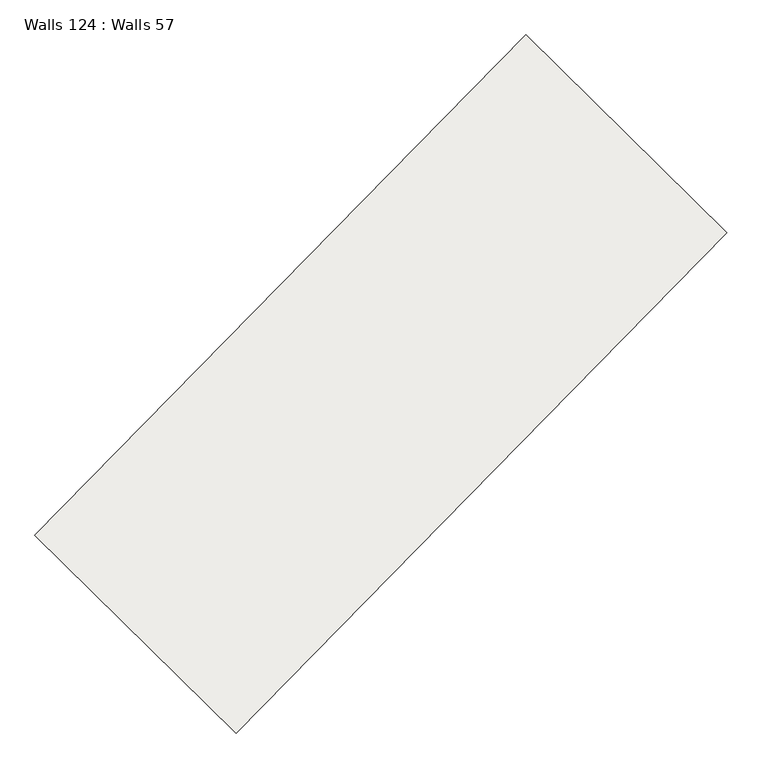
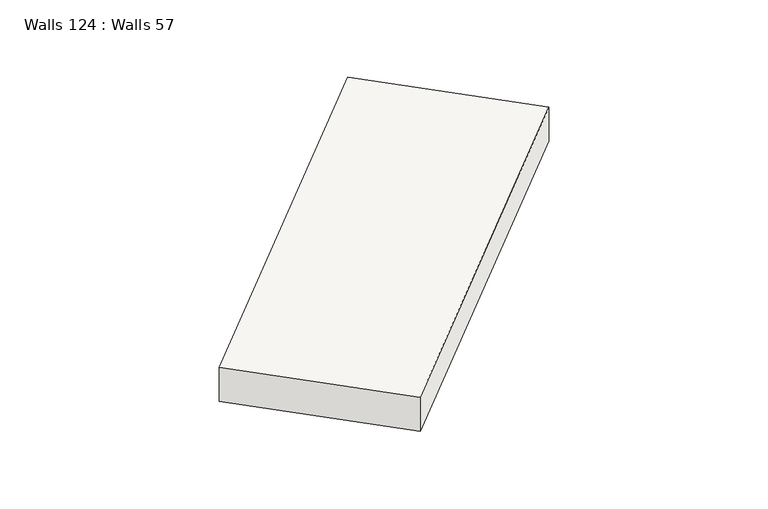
"""IFC4 building model written with IfcOpenShell, lengths in millimetres: slab geometry, Walls 124 : Walls 57."""

from ifc_helpers import new_model, si_unit, frame, origin, place, context, project, spatial, polyline, outline, extrude, source, transform, mapped, element, save


def walls_124_walls_57_e2057624(model_context):
    return source(origin(), model_context, "Body", "SweptSolid", [
        extrude(outline(polyline([(-350.0, 0.0), (350.0, 0.0), (270.0, -8699.9999997), (-430.0, -8699.9999997), (-350.0, 0.0)])), frame((-36583.2115949, -196481.1356057, 637910.0), z_axis=(-0.7137361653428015, 0.700414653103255, 0.0), x_axis=(0.0, 0.0, 1.0)), (0.0, 0.0, 1.0), 3499.999995),
    ])


if __name__ == "__main__":
    model = new_model("IFC4")
    model_context = context("Model", 3, world=origin())
    ifc_project = project(units=[si_unit("LENGTHUNIT", "METRE", prefix="MILLI")], contexts=[model_context])
    site = spatial("IfcSite", under=ifc_project)
    building = spatial("IfcBuilding", under=site)
    placement = place(None, origin())
    walls_124_walls_57_shape = walls_124_walls_57_e2057624(model_context)
    element("IfcSlab", 1, ObjectType="Walls 124 : Walls 57", at=placement, inside=building, context=model_context, shape_type="MappedRepresentation", body=[
        mapped(walls_124_walls_57_shape, transform((0.0, 0.0, 0.0), x_axis=(1.0, 0.0, 0.0), y_axis=(0.0, 1.0, 0.0), z_axis=(0.0, 0.0, 1.0))),
    ])
    save(model, "model.ifc")
